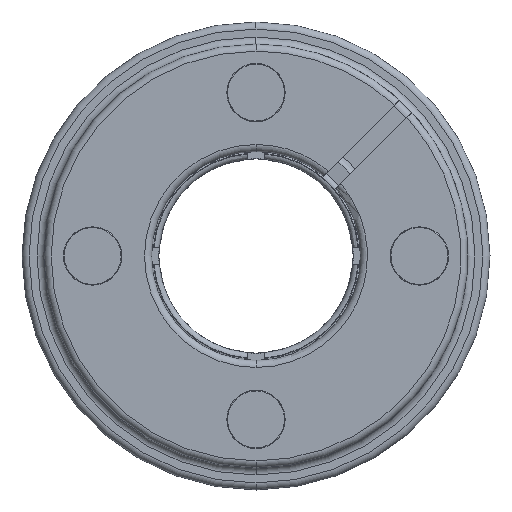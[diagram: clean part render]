
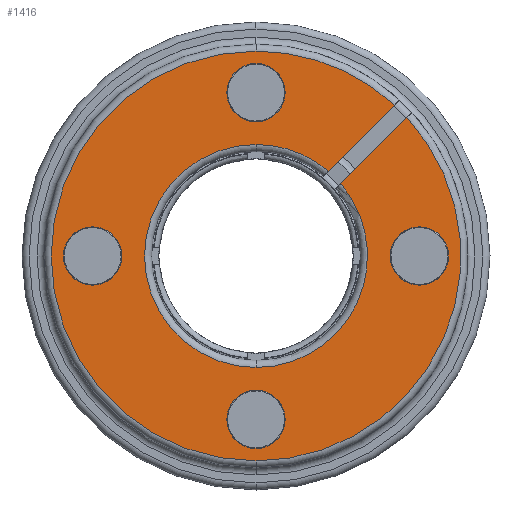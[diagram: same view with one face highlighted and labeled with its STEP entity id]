
A CAD part, left-side view. The second image highlights one B-rep face of the part: STEP entity #1416.
In plain terms, the highlighted planar face has unit normal (-1, 0, 0).
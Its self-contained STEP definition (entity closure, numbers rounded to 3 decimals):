
#31 = CIRCLE ( 'NONE', #67, 1.65 ) ;
#64 = DIRECTION ( 'NONE',  ( 0., 0., 1. ) ) ;
#65 = DIRECTION ( 'NONE',  ( -1., 0., 0. ) ) ;
#66 = CARTESIAN_POINT ( 'NONE',  ( -1.44, 25.625, 0. ) ) ;
#67 = AXIS2_PLACEMENT_3D ( 'NONE', #66, #65, #64 ) ;
#1400 = EDGE_LOOP ( 'NONE', ( #1415, #1419 ) ) ;
#1406 = ORIENTED_EDGE ( 'NONE', *, *, #2958, .F. ) ;
#1413 = EDGE_CURVE ( 'NONE', #2968, #2856, #5630, .T. ) ;
#1415 = ORIENTED_EDGE ( 'NONE', *, *, #1413, .F. ) ;
#1416 = ADVANCED_FACE ( 'NONE', ( #5614, #5612, #5628, #5627, #5607 ), #5633, .F. ) ;
#1417 = ORIENTED_EDGE ( 'NONE', *, *, #2928, .F. ) ;
#1418 = EDGE_LOOP ( 'NONE', ( #1480, #1422 ) ) ;
#1419 = ORIENTED_EDGE ( 'NONE', *, *, #2883, .F. ) ;
#1420 = EDGE_LOOP ( 'NONE', ( #1423, #1496 ) ) ;
#1421 = EDGE_LOOP ( 'NONE', ( #1426, #1417 ) ) ;
#1422 = ORIENTED_EDGE ( 'NONE', *, *, #2913, .F. ) ;
#1423 = ORIENTED_EDGE ( 'NONE', *, *, #1520, .F. ) ;
#1424 = ORIENTED_EDGE ( 'NONE', *, *, #1552, .F. ) ;
#1425 = ORIENTED_EDGE ( 'NONE', *, *, #1553, .F. ) ;
#1426 = ORIENTED_EDGE ( 'NONE', *, *, #1491, .F. ) ;
#1429 = EDGE_CURVE ( 'NONE', #2864, #2901, #5443, .T. ) ;
#1430 = EDGE_CURVE ( 'NONE', #1494, #2920, #5620, .T. ) ;
#1480 = ORIENTED_EDGE ( 'NONE', *, *, #1429, .F. ) ;
#1491 = EDGE_CURVE ( 'NONE', #2917, #2918, #5753, .T. ) ;
#1494 = VERTEX_POINT ( 'NONE', #5756 ) ;
#1495 = EDGE_LOOP ( 'NONE', ( #1498, #1500, #1550, #1425, #1424, #1551, #1406, #1501 ) ) ;
#1496 = ORIENTED_EDGE ( 'NONE', *, *, #3067, .F. ) ;
#1497 = EDGE_CURVE ( 'NONE', #1494, #2808, #5737, .T. ) ;
#1498 = ORIENTED_EDGE ( 'NONE', *, *, #1497, .T. ) ;
#1499 = VERTEX_POINT ( 'NONE', #5705 ) ;
#1500 = ORIENTED_EDGE ( 'NONE', *, *, #2852, .T. ) ;
#1501 = ORIENTED_EDGE ( 'NONE', *, *, #1430, .F. ) ;
#1520 = EDGE_CURVE ( 'NONE', #2988, #2770, #5734, .T. ) ;
#1550 = ORIENTED_EDGE ( 'NONE', *, *, #2875, .T. ) ;
#1551 = ORIENTED_EDGE ( 'NONE', *, *, #2969, .F. ) ;
#1552 = EDGE_CURVE ( 'NONE', #2932, #1499, #5822, .T. ) ;
#1553 = EDGE_CURVE ( 'NONE', #1499, #2755, #5791, .T. ) ;
#2755 = VERTEX_POINT ( 'NONE', #4173 ) ;
#2770 = VERTEX_POINT ( 'NONE', #4201 ) ;
#2808 = VERTEX_POINT ( 'NONE', #4285 ) ;
#2809 = VERTEX_POINT ( 'NONE', #4292 ) ;
#2852 = EDGE_CURVE ( 'NONE', #2808, #2809, #4414, .T. ) ;
#2856 = VERTEX_POINT ( 'NONE', #4398 ) ;
#2864 = VERTEX_POINT ( 'NONE', #4442 ) ;
#2875 = EDGE_CURVE ( 'NONE', #2809, #2755, #4424, .T. ) ;
#2883 = EDGE_CURVE ( 'NONE', #2856, #2968, #4477, .T. ) ;
#2901 = VERTEX_POINT ( 'NONE', #4456 ) ;
#2906 = VERTEX_POINT ( 'NONE', #4516 ) ;
#2913 = EDGE_CURVE ( 'NONE', #2901, #2864, #4517, .T. ) ;
#2917 = VERTEX_POINT ( 'NONE', #4554 ) ;
#2918 = VERTEX_POINT ( 'NONE', #4553 ) ;
#2920 = VERTEX_POINT ( 'NONE', #4551 ) ;
#2928 = EDGE_CURVE ( 'NONE', #2918, #2917, #4505, .T. ) ;
#2932 = VERTEX_POINT ( 'NONE', #4540 ) ;
#2958 = EDGE_CURVE ( 'NONE', #2920, #2906, #4637, .T. ) ;
#2968 = VERTEX_POINT ( 'NONE', #4628 ) ;
#2969 = EDGE_CURVE ( 'NONE', #2906, #2932, #4630, .T. ) ;
#2988 = VERTEX_POINT ( 'NONE', #4681 ) ;
#3067 = EDGE_CURVE ( 'NONE', #2770, #2988, #31, .T. ) ;
#4173 = CARTESIAN_POINT ( 'NONE',  ( -1.44, 7.827, 7.841 ) ) ;
#4201 = CARTESIAN_POINT ( 'NONE',  ( -1.44, 25.625, -1.65 ) ) ;
#4285 = CARTESIAN_POINT ( 'NONE',  ( -1.44, 16.375, 11.6 ) ) ;
#4292 = CARTESIAN_POINT ( 'NONE',  ( -1.44, 16.375, -11.6 ) ) ;
#4398 = CARTESIAN_POINT ( 'NONE',  ( -1.44, 18.025, 9.25 ) ) ;
#4401 = DIRECTION ( 'NONE',  ( 0., 0., -1. ) ) ;
#4402 = DIRECTION ( 'NONE',  ( -1., 0., 0. ) ) ;
#4403 = CARTESIAN_POINT ( 'NONE',  ( -1.44, 16.375, 0. ) ) ;
#4404 = AXIS2_PLACEMENT_3D ( 'NONE', #4403, #4402, #4401 ) ;
#4414 = CIRCLE ( 'NONE', #4404, 11.6 ) ;
#4421 = DIRECTION ( 'NONE',  ( 0., 0., -1. ) ) ;
#4422 = DIRECTION ( 'NONE',  ( -1., 0., 0. ) ) ;
#4423 = CARTESIAN_POINT ( 'NONE',  ( -1.44, 16.375, 0. ) ) ;
#4424 = CIRCLE ( 'NONE', #4433, 11.6 ) ;
#4433 = AXIS2_PLACEMENT_3D ( 'NONE', #4423, #4422, #4421 ) ;
#4442 = CARTESIAN_POINT ( 'NONE',  ( -1.44, 7.125, -1.65 ) ) ;
#4456 = CARTESIAN_POINT ( 'NONE',  ( -1.44, 7.125, 1.65 ) ) ;
#4465 = DIRECTION ( 'NONE',  ( 0., -1., 0. ) ) ;
#4466 = DIRECTION ( 'NONE',  ( -1., 0., 0. ) ) ;
#4467 = CARTESIAN_POINT ( 'NONE',  ( -1.44, 16.375, 9.25 ) ) ;
#4471 = AXIS2_PLACEMENT_3D ( 'NONE', #4467, #4466, #4465 ) ;
#4477 = CIRCLE ( 'NONE', #4471, 1.65 ) ;
#4479 = AXIS2_PLACEMENT_3D ( 'NONE', #4508, #4507, #4506 ) ;
#4505 = CIRCLE ( 'NONE', #4544, 1.65 ) ;
#4506 = DIRECTION ( 'NONE',  ( 0., 0., -1. ) ) ;
#4507 = DIRECTION ( 'NONE',  ( -1., 0., 0. ) ) ;
#4508 = CARTESIAN_POINT ( 'NONE',  ( -1.44, 7.125, 0. ) ) ;
#4516 = CARTESIAN_POINT ( 'NONE',  ( -1.44, 16.375, 6.312 ) ) ;
#4517 = CIRCLE ( 'NONE', #4479, 1.65 ) ;
#4540 = CARTESIAN_POINT ( 'NONE',  ( -1.44, 16.375, -6.312 ) ) ;
#4541 = DIRECTION ( 'NONE',  ( 0., 1., 0. ) ) ;
#4542 = DIRECTION ( 'NONE',  ( -1., 0., 0. ) ) ;
#4543 = CARTESIAN_POINT ( 'NONE',  ( -1.44, 16.375, -9.25 ) ) ;
#4544 = AXIS2_PLACEMENT_3D ( 'NONE', #4543, #4542, #4541 ) ;
#4551 = CARTESIAN_POINT ( 'NONE',  ( -1.44, 12.279, 4.803 ) ) ;
#4553 = CARTESIAN_POINT ( 'NONE',  ( -1.44, 14.725, -9.25 ) ) ;
#4554 = CARTESIAN_POINT ( 'NONE',  ( -1.44, 18.025, -9.25 ) ) ;
#4626 = AXIS2_PLACEMENT_3D ( 'NONE', #4668, #4667, #4666 ) ;
#4628 = CARTESIAN_POINT ( 'NONE',  ( -1.44, 14.725, 9.25 ) ) ;
#4630 = CIRCLE ( 'NONE', #4626, 6.312 ) ;
#4633 = DIRECTION ( 'NONE',  ( 0., 0., 1. ) ) ;
#4634 = DIRECTION ( 'NONE',  ( -1., 0., 0. ) ) ;
#4635 = CARTESIAN_POINT ( 'NONE',  ( -1.44, 16.375, 0. ) ) ;
#4636 = AXIS2_PLACEMENT_3D ( 'NONE', #4635, #4634, #4633 ) ;
#4637 = CIRCLE ( 'NONE', #4636, 6.312 ) ;
#4666 = DIRECTION ( 'NONE',  ( 0., 0., 1. ) ) ;
#4667 = DIRECTION ( 'NONE',  ( -1., 0., 0. ) ) ;
#4668 = CARTESIAN_POINT ( 'NONE',  ( -1.44, 16.375, 0. ) ) ;
#4681 = CARTESIAN_POINT ( 'NONE',  ( -1.44, 25.625, 1.65 ) ) ;
#5374 = DIRECTION ( 'NONE',  ( 0., 0.707, -0.707 ) ) ;
#5441 = DIRECTION ( 'NONE',  ( -1., 0., 0. ) ) ;
#5442 = CARTESIAN_POINT ( 'NONE',  ( -1.44, 7.125, 0. ) ) ;
#5443 = CIRCLE ( 'NONE', #5487, 1.65 ) ;
#5487 = AXIS2_PLACEMENT_3D ( 'NONE', #5442, #5441, #5541 ) ;
#5541 = DIRECTION ( 'NONE',  ( 0., 0., -1. ) ) ;
#5607 = FACE_OUTER_BOUND ( 'NONE', #1495, .T. ) ;
#5608 = DIRECTION ( 'NONE',  ( 0., -1., 0. ) ) ;
#5609 = DIRECTION ( 'NONE',  ( -1., 0., 0. ) ) ;
#5610 = CARTESIAN_POINT ( 'NONE',  ( -1.44, 16.375, 9.25 ) ) ;
#5611 = AXIS2_PLACEMENT_3D ( 'NONE', #5631, #5636, #5635 ) ;
#5612 = FACE_BOUND ( 'NONE', #1418, .T. ) ;
#5614 = FACE_BOUND ( 'NONE', #1400, .T. ) ;
#5617 = AXIS2_PLACEMENT_3D ( 'NONE', #5610, #5609, #5608 ) ;
#5618 = VECTOR ( 'NONE', #5374, 1000. ) ;
#5619 = CARTESIAN_POINT ( 'NONE',  ( -1.44, 13.485, 3.597 ) ) ;
#5620 = LINE ( 'NONE', #5619, #5618 ) ;
#5627 = FACE_BOUND ( 'NONE', #1420, .T. ) ;
#5628 = FACE_BOUND ( 'NONE', #1421, .T. ) ;
#5630 = CIRCLE ( 'NONE', #5617, 1.65 ) ;
#5631 = CARTESIAN_POINT ( 'NONE',  ( -1.44, 16.375, 0. ) ) ;
#5633 = PLANE ( 'NONE',  #5611 ) ;
#5635 = DIRECTION ( 'NONE',  ( 0., 0., -1. ) ) ;
#5636 = DIRECTION ( 'NONE',  ( 1., 0., 0. ) ) ;
#5688 = AXIS2_PLACEMENT_3D ( 'NONE', #5747, #5746, #5745 ) ;
#5694 = DIRECTION ( 'NONE',  ( 0., 0., 1. ) ) ;
#5695 = DIRECTION ( 'NONE',  ( -1., 0., 0. ) ) ;
#5696 = CARTESIAN_POINT ( 'NONE',  ( -1.44, 25.625, 0. ) ) ;
#5697 = AXIS2_PLACEMENT_3D ( 'NONE', #5696, #5695, #5694 ) ;
#5705 = CARTESIAN_POINT ( 'NONE',  ( -1.44, 11.572, 4.096 ) ) ;
#5734 = CIRCLE ( 'NONE', #5697, 1.65 ) ;
#5737 = CIRCLE ( 'NONE', #5688, 11.6 ) ;
#5738 = DIRECTION ( 'NONE',  ( 0., 1., 0. ) ) ;
#5739 = DIRECTION ( 'NONE',  ( -1., 0., 0. ) ) ;
#5740 = CARTESIAN_POINT ( 'NONE',  ( -1.44, 16.375, -9.25 ) ) ;
#5741 = AXIS2_PLACEMENT_3D ( 'NONE', #5740, #5739, #5738 ) ;
#5745 = DIRECTION ( 'NONE',  ( 0., 0., -1. ) ) ;
#5746 = DIRECTION ( 'NONE',  ( -1., 0., 0. ) ) ;
#5747 = CARTESIAN_POINT ( 'NONE',  ( -1.44, 16.375, 0. ) ) ;
#5753 = CIRCLE ( 'NONE', #5741, 1.65 ) ;
#5756 = CARTESIAN_POINT ( 'NONE',  ( -1.44, 8.534, 8.548 ) ) ;
#5791 = LINE ( 'NONE', #5847, #5846 ) ;
#5803 = DIRECTION ( 'NONE',  ( 0., 0., 1. ) ) ;
#5804 = DIRECTION ( 'NONE',  ( -1., 0., 0. ) ) ;
#5805 = CARTESIAN_POINT ( 'NONE',  ( -1.44, 16.375, 0. ) ) ;
#5822 = CIRCLE ( 'NONE', #5863, 6.312 ) ;
#5845 = DIRECTION ( 'NONE',  ( 0., -0.707, 0.707 ) ) ;
#5846 = VECTOR ( 'NONE', #5845, 1000. ) ;
#5847 = CARTESIAN_POINT ( 'NONE',  ( -1.44, 12.778, 2.89 ) ) ;
#5863 = AXIS2_PLACEMENT_3D ( 'NONE', #5805, #5804, #5803 ) ;
